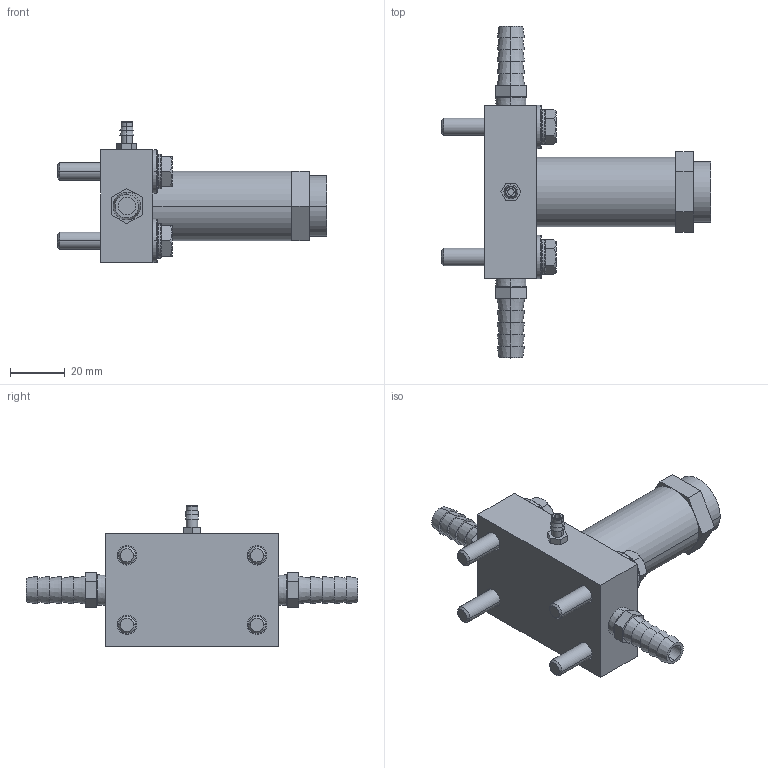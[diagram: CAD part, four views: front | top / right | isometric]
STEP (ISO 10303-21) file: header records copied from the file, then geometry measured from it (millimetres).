
FILE_DESCRIPTION((''),'2;1');
FILE_NAME('XA2_ASM','2017-08-24T',('jennifer.elliott'),('CenterLine (Windsor) Ltd - Automation Components Division'),'PRO/ENGINEER BY PARAMETRIC TECHNOLOGY CORPORATION, 2015030','PRO/ENGINEER BY PARAMETRIC TECHNOLOGY CORPORATION, 2015030','');
FILE_SCHEMA(('AUTOMOTIVE_DESIGN { 1 0 10303 214 1 1 1 1 }'));
Length unit declared in the file: inch
Products named in the file (17): PRT0842; PRT0843; PRT0844; PRT0845; PRT0846; PRT0847; PRT0848; PRT0849; PRT0850; PRT0851; PRT0852; ASM0010_ASM; PRT0853; PRT0854; TMP_DWG-3DSOLID_73; TMP_DWG-3DSOLID_75; XA2_ASM
Assembly tree (16 placements, depth 3):
  XA2_ASM
    PRT0842
    PRT0843
    PRT0844
    PRT0845
    PRT0846
    PRT0847
    PRT0848
    ASM0010_ASM
      PRT0849
      PRT0850
      PRT0851
      PRT0852
    PRT0853
    PRT0854
    TMP_DWG-3DSOLID_73
    TMP_DWG-3DSOLID_75
Bounding box: 98.42 x 121.41 x 51.59 mm (x, y, z)
Volume: 89381.9 mm3; surface area: 29011.8 mm2
Topology: 15 solids, 15 shells, 257 faces, 592 edges, 386 vertices
Faces by surface type: plane 115, cone 60, cylinder 54, torus 28
Entity records: 8753 total; most frequent: CARTESIAN_POINT 1770, DIRECTION 1362, ORIENTED_EDGE 1184, EDGE_CURVE 592, AXIS2_PLACEMENT_3D 564, VERTEX_POINT 386, EDGE_LOOP 300, CIRCLE 270
